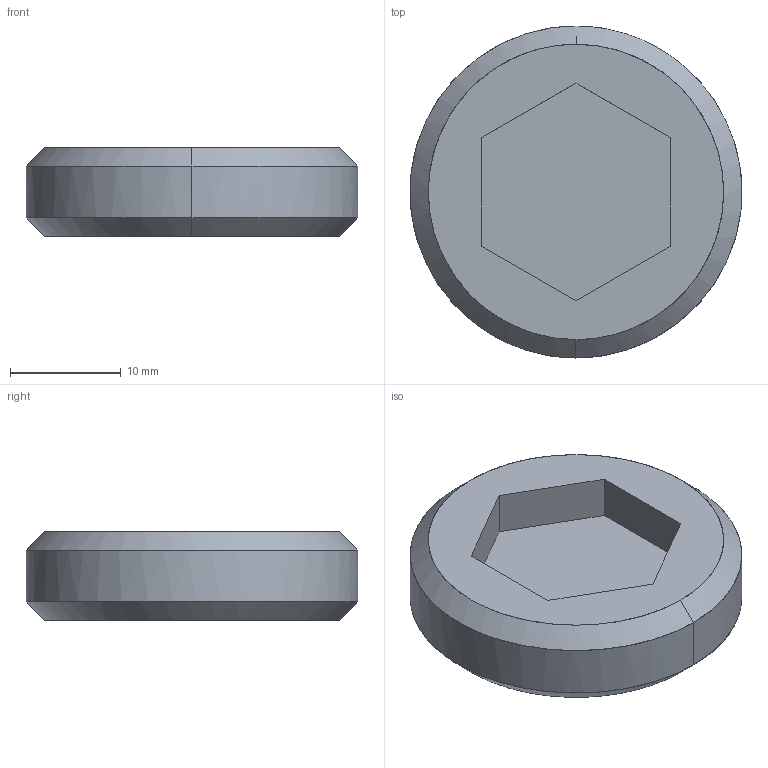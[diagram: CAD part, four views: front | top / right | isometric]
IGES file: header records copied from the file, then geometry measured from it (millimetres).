
Global section: file name: E:\UnigraphicsGraphicData\MISUMI_PRESS-PARTS\IGES\3d_msws30-8_00527_r00.igs; native system: NX V5.0; preprocessor: UGS NX IGES V5.0; author: MISUMI; date: 20110105.161526; units: millimetre
Bounding box: 29.98 x 30 x 8 mm (x, y, z)
Surface area: 2214.2 mm2 (no closed solid volume)
Topology: 0 solids, 0 shells, 15 faces, 92 edges, 92 vertices
Faces by surface type: bspline 15
